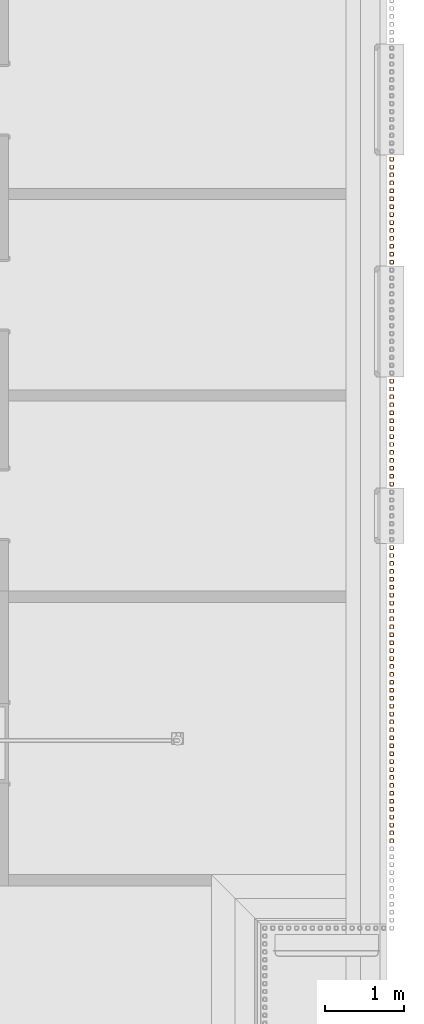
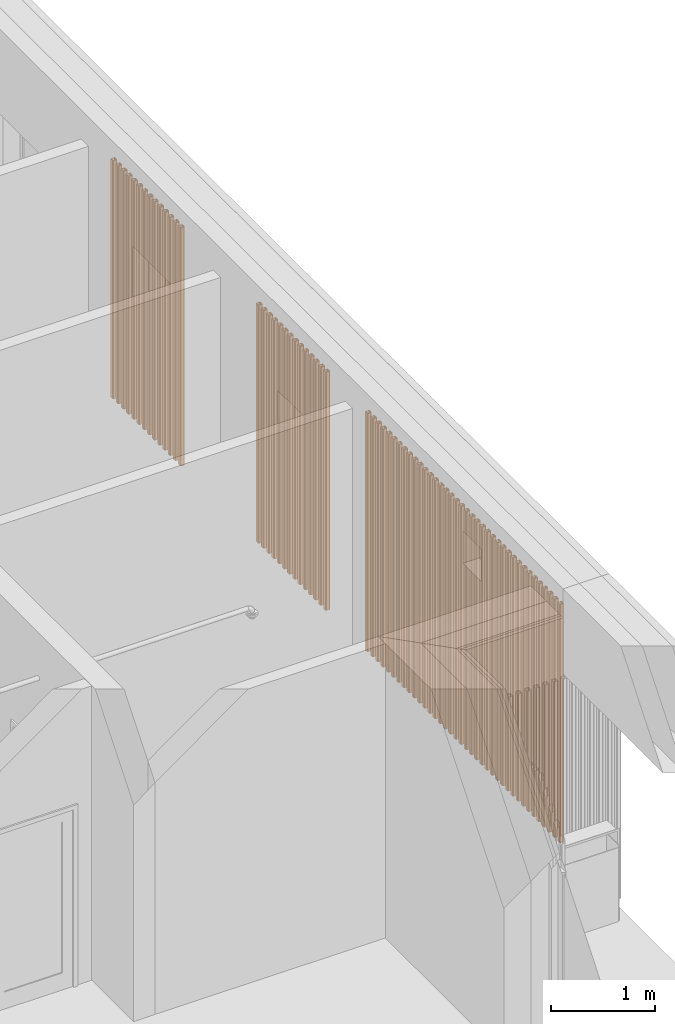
# One storey, part 79 of 112: 66 proxies.
"""IFC2X3 building model written with IfcOpenShell, lengths in millimetres."""

from ifc_helpers import new_model, entity, si_unit, converted_unit, derived_unit, money_unit, direction, frame, origin_with_axes, place, context, subcontext, project, spatial, faceted_brep, source, transform, mapped, material, type_object, element, save


model = new_model("IFC2X3")

# Units and contexts
model_context = context("Model", 3, precision=0.01, world=origin_with_axes(), true_north=direction((0.0, 1.0)))
body_context = subcontext(model_context, "Body", "Model", "MODEL_VIEW")
ifc_project = project(units=[si_unit("LENGTHUNIT", "METRE", prefix="MILLI"), si_unit("AREAUNIT", "SQUARE_METRE"), si_unit("VOLUMEUNIT", "CUBIC_METRE"), converted_unit("PLANEANGLEUNIT", "DEGREE", entity("IfcPlaneAngleMeasure", 0.0174532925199), si_unit("PLANEANGLEUNIT", "RADIAN"), dimensions=[0, 0, 0, 0, 0, 0, 0]), si_unit("SOLIDANGLEUNIT", "STERADIAN"), money_unit("EUR"), converted_unit("TIMEUNIT", "Year", entity("IfcTimeMeasure", 31556926.0), si_unit("TIMEUNIT", "SECOND"), dimensions=[0, 0, 1, 0, 0, 0, 0]), si_unit("MASSUNIT", "GRAM", prefix="KILO"), si_unit("THERMODYNAMICTEMPERATUREUNIT", "DEGREE_CELSIUS"), si_unit("LUMINOUSINTENSITYUNIT", "LUMEN"), si_unit("ENERGYUNIT", "JOULE", prefix="MEGA"), derived_unit("THERMALCONDUCTANCEUNIT", [(si_unit("POWERUNIT", "WATT"), 1), (si_unit("LENGTHUNIT", "METRE"), -1), (si_unit("THERMODYNAMICTEMPERATUREUNIT", "KELVIN"), -1)]), derived_unit("SPECIFICHEATCAPACITYUNIT", [(si_unit("ENERGYUNIT", "JOULE"), 1), (si_unit("MASSUNIT", "GRAM", prefix="KILO"), -1), (si_unit("THERMODYNAMICTEMPERATUREUNIT", "KELVIN"), -1)]), derived_unit("MASSDENSITYUNIT", [(si_unit("MASSUNIT", "GRAM", prefix="KILO"), 1), (si_unit("VOLUMEUNIT", "CUBIC_METRE"), -1)])], contexts=[model_context])

# Site, building, storey
site_placement = place(None, origin_with_axes())
site = spatial("IfcSite", under=ifc_project, at=site_placement, Name="Politse- ja Piirivalveameti ning Päästeameti ühishoone", CompositionType="ELEMENT")
building_placement = place(site_placement, origin_with_axes())
building = spatial("IfcBuilding", under=site, at=building_placement, Name="Politse- ja Piirivalveameti ning Päästeameti ühishoone", CompositionType="ELEMENT")
storey_placement = place(building_placement, origin_with_axes())
storey = spatial("IfcBuildingStorey", under=building, at=storey_placement, Name="Esimene korrus", CompositionType="ELEMENT", Elevation=0.0)

# Proxies
ifc_material = material(Name="ET-05_Teras")
building_element_proxy_type = type_object("IfcBuildingElementProxyType", Name="SHS Cold-Formed Column 23", PredefinedType="NOTDEFINED")
shared_shape = source(origin_with_axes(), body_context, "Body", "Brep", [
    faceted_brep([(-17.0, -25.0, 0.0), (17.0, -25.0, 0.0), (17.0, -25.0, 2800.0), (-17.0, -25.0, 2800.0), (-22.6568542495, -22.6568542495, 0.0), (-25.0, -17.0, 0.0), (-25.0, 17.0, 0.0), (-22.6568542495, 22.6568542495, 0.0), (-17.0, 25.0, 0.0), (17.0, 25.0, 0.0), (22.6568542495, 22.6568542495, 0.0), (25.0, 17.0, 0.0), (25.0, -17.0, 0.0), (22.6568542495, -22.6568542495, 0.0), (-17.0, -21.0, 0.0), (17.0, -21.0, 0.0), (19.8284271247, -19.8284271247, 0.0), (21.0, -17.0, 0.0), (21.0, 17.0, 0.0), (19.8284271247, 19.8284271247, 0.0), (17.0, 21.0, 0.0), (-17.0, 21.0, 0.0), (-19.8284271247, 19.8284271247, 0.0), (-21.0, 17.0, 0.0), (-21.0, -17.0, 0.0), (-19.8284271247, -19.8284271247, 0.0), (22.6568542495, -22.6568542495, 2800.0), (25.0, -17.0, 2800.0), (25.0, 17.0, 2800.0), (22.6568542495, 22.6568542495, 2800.0), (17.0, 25.0, 2800.0), (-17.0, 25.0, 2800.0), (-22.6568542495, 22.6568542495, 2800.0), (-25.0, 17.0, 2800.0), (-25.0, -17.0, 2800.0), (-22.6568542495, -22.6568542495, 2800.0), (-17.0, -21.0, 2800.0), (-19.8284271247, -19.8284271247, 2800.0), (-21.0, -17.0, 2800.0), (-21.0, 17.0, 2800.0), (-19.8284271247, 19.8284271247, 2800.0), (-17.0, 21.0, 2800.0), (17.0, 21.0, 2800.0), (19.8284271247, 19.8284271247, 2800.0), (21.0, 17.0, 2800.0), (21.0, -17.0, 2800.0), (19.8284271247, -19.8284271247, 2800.0), (17.0, -21.0, 2800.0)], [[[0, 1, 2, 3]], [[0, 4, 5, 6, 7, 8, 9, 10, 11, 12, 13, 1], [14, 15, 16, 17, 18, 19, 20, 21, 22, 23, 24, 25]], [[1, 13, 26, 2]], [[3, 2, 26, 27, 28, 29, 30, 31, 32, 33, 34, 35], [36, 37, 38, 39, 40, 41, 42, 43, 44, 45, 46, 47]], [[4, 0, 3, 35]], [[5, 4, 35, 34]], [[6, 5, 34, 33]], [[7, 6, 33, 32]], [[8, 7, 32, 31]], [[9, 8, 31, 30]], [[10, 9, 30, 29]], [[11, 10, 29, 28]], [[12, 11, 28, 27]], [[13, 12, 27, 26]], [[15, 14, 36, 47]], [[16, 15, 47, 46]], [[17, 16, 46, 45]], [[18, 17, 45, 44]], [[19, 18, 44, 43]], [[20, 19, 43, 42]], [[21, 20, 42, 41]], [[22, 21, 41, 40]], [[23, 22, 40, 39]], [[24, 23, 39, 38]], [[25, 24, 38, 37]], [[14, 25, 37, 36]]]),
])
for number, where, z_axis, x_axis in (
    (1, (70235.2095212, 21350.0702441, 0.0), (0.0, 0.0, 1.0), (1.0, 0.0, 0.0)),
    (2, (70235.2095212, 21450.0702441, 0.0), (0.0, 0.0, 1.0), (1.0, 0.0, 0.0)),
    (3, (70235.2095212, 21550.0702441, 0.0), (0.0, 0.0, 1.0), (1.0, 0.0, 0.0)),
    (4, (70235.2095212, 21650.0702441, 0.0), (0.0, 0.0, 1.0), (1.0, 0.0, 0.0)),
    (5, (70235.2095212, 21750.0702441, 0.0), (0.0, 0.0, 1.0), (1.0, 0.0, 0.0)),
    (6, (70235.2095212, 21850.0702441, 0.0), (0.0, 0.0, 1.0), (1.0, 0.0, 0.0)),
    (7, (70235.2095212, 21950.0702441, 0.0), (0.0, 0.0, 1.0), (1.0, 0.0, 0.0)),
    (8, (70235.2095212, 22050.0702441, 0.0), (0.0, 0.0, 1.0), (1.0, 0.0, 0.0)),
    (9, (70235.2095212, 22150.0702441, 0.0), (0.0, 0.0, 1.0), (1.0, 0.0, 0.0)),
    (10, (70235.2095212, 22250.0702441, 0.0), (0.0, 0.0, 1.0), (1.0, 0.0, 0.0)),
    (11, (70235.2095212, 22350.0702441, 0.0), (0.0, 0.0, 1.0), (1.0, 0.0, 0.0)),
    (12, (70235.2095212, 22450.0702441, 0.0), (0.0, 0.0, 1.0), (1.0, 0.0, 0.0)),
    (13, (70235.2095212, 22550.0702441, 0.0), (0.0, 0.0, 1.0), (1.0, 0.0, 0.0)),
    (14, (70235.2095212, 20550.0702441, 0.0), (0.0, 0.0, 1.0), (1.0, 0.0, 0.0)),
    (15, (70235.2095212, 20450.0702441, 0.0), (0.0, 0.0, 1.0), (1.0, 0.0, 0.0)),
    (16, (70235.2095212, 20350.0702441, 0.0), (0.0, 0.0, 1.0), (1.0, 0.0, 0.0)),
    (17, (70235.2095212, 20250.0702441, 0.0), (0.0, 0.0, 1.0), (1.0, 0.0, 0.0)),
    (18, (70235.2095212, 20150.0702441, 0.0), (0.0, 0.0, 1.0), (1.0, 0.0, 0.0)),
    (19, (70235.2095212, 20050.0702441, 0.0), (0.0, 0.0, 1.0), (1.0, 0.0, 0.0)),
    (20, (70235.2095212, 19950.0702441, 0.0), (0.0, 0.0, 1.0), (1.0, 0.0, 0.0)),
    (21, (70235.2095212, 19850.0702441, 0.0), (0.0, 0.0, 1.0), (1.0, 0.0, 0.0)),
    (22, (70235.2095212, 19750.0702441, 0.0), (0.0, 0.0, 1.0), (1.0, 0.0, 0.0)),
    (23, (70235.2095212, 19650.0702441, 0.0), (0.0, 0.0, 1.0), (1.0, 0.0, 0.0)),
    (24, (70235.2095212, 19550.0702441, 0.0), (0.0, 0.0, 1.0), (1.0, 0.0, 0.0)),
    (25, (70235.2095212, 19450.0702441, 0.0), (0.0, 0.0, 1.0), (1.0, 0.0, 0.0)),
    (26, (70235.2095212, 19350.0702441, 0.0), (0.0, 0.0, 1.0), (1.0, 0.0, 0.0)),
    (27, (70235.2095212, 19250.0702441, 0.0), (0.0, 0.0, 1.0), (1.0, 0.0, 0.0)),
    (28, (70235.2095212, 19150.0702441, 0.0), (0.0, 0.0, 1.0), (1.0, 0.0, 0.0)),
    (29, (70235.2095212, 19050.0702441, 0.0), (0.0, 0.0, 1.0), (1.0, 0.0, 0.0)),
    (30, (70235.2095212, 18950.0702441, 0.0), (0.0, 0.0, 1.0), (1.0, 0.0, 0.0)),
    (31, (70235.2095212, 18850.0702441, 0.0), (0.0, 0.0, 1.0), (1.0, 0.0, 0.0)),
    (32, (70235.2095212, 18750.0702441, 0.0), (0.0, 0.0, 1.0), (1.0, 0.0, 0.0)),
    (33, (70235.2095212, 18650.0702441, 0.0), (0.0, 0.0, 1.0), (1.0, 0.0, 0.0)),
    (34, (70235.2095212, 18550.0702441, 0.0), (0.0, 0.0, 1.0), (1.0, 0.0, 0.0)),
    (35, (70235.2095212, 18450.0702441, 0.0), (0.0, 0.0, 1.0), (1.0, 0.0, 0.0)),
    (36, (70235.2095212, 18350.0702441, 0.0), (0.0, 0.0, 1.0), (1.0, 0.0, 0.0)),
    (37, (70235.2095212, 18250.0702441, 0.0), (0.0, 0.0, 1.0), (1.0, 0.0, 0.0)),
    (38, (70235.2095212, 18150.0702441, 0.0), (0.0, 0.0, 1.0), (1.0, 0.0, 0.0)),
    (39, (70235.2095212, 18050.0702441, 0.0), (0.0, 0.0, 1.0), (1.0, 0.0, 0.0)),
    (40, (70235.2095212, 17950.0702441, 0.0), (0.0, 0.0, 1.0), (1.0, 0.0, 0.0)),
    (41, (70235.2095212, 17850.0702441, 0.0), (0.0, 0.0, 1.0), (1.0, 0.0, 0.0)),
    (42, (70235.2095212, 17750.0702441, 0.0), (0.0, 0.0, 1.0), (1.0, 0.0, 0.0)),
    (43, (70235.2095212, 17650.0702441, 0.0), (0.0, 0.0, 1.0), (1.0, 0.0, 0.0)),
    (44, (70235.2095212, 17550.0702441, 0.0), (0.0, 0.0, 1.0), (1.0, 0.0, 0.0)),
    (45, (70235.2095212, 17450.0702441, 0.0), (0.0, 0.0, 1.0), (1.0, 0.0, 0.0)),
    (46, (70235.2095212, 17350.0702441, 0.0), (0.0, 0.0, 1.0), (1.0, 0.0, 0.0)),
    (47, (70235.2095212, 17250.0702441, 0.0), (0.0, 0.0, 1.0), (1.0, 0.0, 0.0)),
    (48, (70235.2095212, 17150.0702441, 0.0), (0.0, 0.0, 1.0), (1.0, 0.0, 0.0)),
    (49, (70235.2095212, 17050.0702441, 0.0), (0.0, 0.0, 1.0), (1.0, 0.0, 0.0)),
    (50, (70235.2095212, 16950.0702441, 0.0), (0.0, 0.0, 1.0), (1.0, 0.0, 0.0)),
    (51, (70235.2095212, 16850.0702441, 0.0), (0.0, 0.0, 1.0), (1.0, 0.0, 0.0)),
    (52, (70235.2095212, 22650.0702441, 0.0), (0.0, 0.0, 1.0), (1.0, 0.0, 0.0)),
    (53, (70235.2095212, 24150.0702441, 0.0), (0.0, 0.0, 1.0), (1.0, 0.0, 0.0)),
    (54, (70235.2095212, 24250.0702441, 0.0), (0.0, 0.0, 1.0), (1.0, 0.0, 0.0)),
    (55, (70235.2095212, 24350.0702441, 0.0), (0.0, 0.0, 1.0), (1.0, 0.0, 0.0)),
    (56, (70235.2095212, 24450.0702441, 0.0), (0.0, 0.0, 1.0), (1.0, 0.0, 0.0)),
    (57, (70235.2095212, 24550.0702441, 0.0), (0.0, 0.0, 1.0), (1.0, 0.0, 0.0)),
    (58, (70235.2095212, 24650.0702441, 0.0), (0.0, 0.0, 1.0), (1.0, 0.0, 0.0)),
    (59, (70235.2095212, 24750.0702441, 0.0), (0.0, 0.0, 1.0), (1.0, 0.0, 0.0)),
    (60, (70235.2095212, 24850.0702441, 0.0), (0.0, 0.0, 1.0), (1.0, 0.0, 0.0)),
    (61, (70235.2095212, 24950.0702441, 0.0), (0.0, 0.0, 1.0), (1.0, 0.0, 0.0)),
    (62, (70235.2095212, 25050.0702441, 0.0), (0.0, 0.0, 1.0), (1.0, 0.0, 0.0)),
    (63, (70235.2095212, 25150.0702441, 0.0), (0.0, 0.0, 1.0), (1.0, 0.0, 0.0)),
    (64, (70235.2095212, 25250.0702441, 0.0), (0.0, 0.0, 1.0), (1.0, 0.0, 0.0)),
    (65, (70235.2095212, 25350.0702441, 0.0), (0.0, 0.0, 1.0), (1.0, 0.0, 0.0)),
    (66, (70235.2095212, 25450.0702441, 0.0), (0.0, 0.0, 1.0), (1.0, 0.0, 0.0)),
):
    element("IfcBuildingElementProxy", number, at=place(storey_placement, frame(where, z_axis=z_axis, x_axis=x_axis)), inside=storey, type_object=building_element_proxy_type, material=ifc_material, Name="Fassaadiribid", context=body_context, shape_type="MappedRepresentation", body=[
        mapped(shared_shape, transform((0.0, 0.0, 0.0))),
    ])

save(model, "model.ifc")
